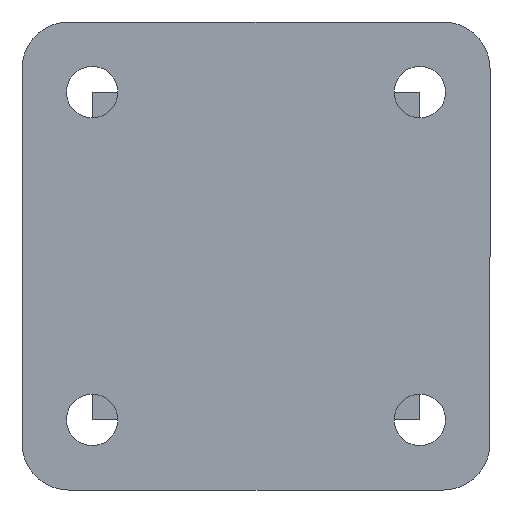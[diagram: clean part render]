
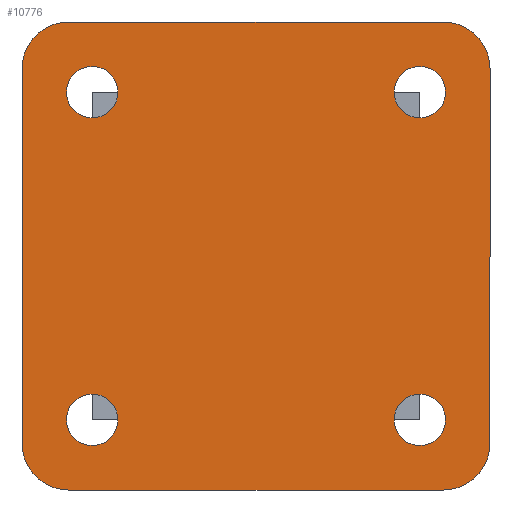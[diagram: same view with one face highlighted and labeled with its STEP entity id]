
A CAD part, front view. The second image highlights one B-rep face of the part: STEP entity #10776.
In plain terms, the highlighted planar face has unit normal (0, -1, 0).
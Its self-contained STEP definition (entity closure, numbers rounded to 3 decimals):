
#31 = CARTESIAN_POINT ( 'NONE',  ( 50., 0., -50. ) ) ;
#76 = AXIS2_PLACEMENT_3D ( 'NONE', #4299, #9288, #1885 ) ;
#141 = CIRCLE ( 'NONE', #12483, 10. ) ;
#207 = CARTESIAN_POINT ( 'NONE',  ( 35., 0., 40.5 ) ) ;
#396 = VERTEX_POINT ( 'NONE', #14947 ) ;
#506 = CIRCLE ( 'NONE', #695, 5.5 ) ;
#671 = EDGE_CURVE ( 'NONE', #5492, #16005, #5587, .T. ) ;
#679 = DIRECTION ( 'NONE',  ( 0., 1., 0. ) ) ;
#695 = AXIS2_PLACEMENT_3D ( 'NONE', #13214, #679, #9348 ) ;
#701 = EDGE_CURVE ( 'NONE', #4297, #1022, #15225, .T. ) ;
#829 = EDGE_LOOP ( 'NONE', ( #7692, #7139 ) ) ;
#883 = EDGE_CURVE ( 'NONE', #4214, #13700, #506, .T. ) ;
#989 = VERTEX_POINT ( 'NONE', #7254 ) ;
#1022 = VERTEX_POINT ( 'NONE', #3370 ) ;
#1119 = ORIENTED_EDGE ( 'NONE', *, *, #3854, .T. ) ;
#1310 = ORIENTED_EDGE ( 'NONE', *, *, #15198, .T. ) ;
#1312 = VECTOR ( 'NONE', #16020, 1000. ) ;
#1324 = EDGE_CURVE ( 'NONE', #1543, #396, #3075, .T. ) ;
#1407 = DIRECTION ( 'NONE',  ( 0., 0., 1. ) ) ;
#1418 = EDGE_CURVE ( 'NONE', #2429, #14824, #7744, .T. ) ;
#1509 = ORIENTED_EDGE ( 'NONE', *, *, #8584, .T. ) ;
#1543 = VERTEX_POINT ( 'NONE', #5329 ) ;
#1778 = CARTESIAN_POINT ( 'NONE',  ( -40., 0., -50. ) ) ;
#1885 = DIRECTION ( 'NONE',  ( 0., 0., 1. ) ) ;
#1981 = ORIENTED_EDGE ( 'NONE', *, *, #8455, .F. ) ;
#2040 = VERTEX_POINT ( 'NONE', #8398 ) ;
#2054 = DIRECTION ( 'NONE',  ( -1., 0., 0. ) ) ;
#2231 = ORIENTED_EDGE ( 'NONE', *, *, #1418, .F. ) ;
#2429 = VERTEX_POINT ( 'NONE', #10417 ) ;
#2466 = CARTESIAN_POINT ( 'NONE',  ( -35., 0., 35. ) ) ;
#2780 = CARTESIAN_POINT ( 'NONE',  ( -50., 0., 50. ) ) ;
#2891 = DIRECTION ( 'NONE',  ( 0., 1., 0. ) ) ;
#3075 = CIRCLE ( 'NONE', #7107, 5.5 ) ;
#3220 = CARTESIAN_POINT ( 'NONE',  ( -35., 0., -29.5 ) ) ;
#3227 = AXIS2_PLACEMENT_3D ( 'NONE', #5495, #12009, #8023 ) ;
#3370 = CARTESIAN_POINT ( 'NONE',  ( 50., 0., -40. ) ) ;
#3594 = CIRCLE ( 'NONE', #16195, 10. ) ;
#3640 = AXIS2_PLACEMENT_3D ( 'NONE', #14405, #15680, #4409 ) ;
#3715 = VERTEX_POINT ( 'NONE', #7282 ) ;
#3814 = DIRECTION ( 'NONE',  ( 0., 1., 0. ) ) ;
#3854 = EDGE_CURVE ( 'NONE', #16005, #5492, #7788, .T. ) ;
#3856 = VECTOR ( 'NONE', #2054, 1000. ) ;
#4065 = DIRECTION ( 'NONE',  ( 0., 0., 1. ) ) ;
#4132 = DIRECTION ( 'NONE',  ( 0., 1., 0. ) ) ;
#4214 = VERTEX_POINT ( 'NONE', #3220 ) ;
#4297 = VERTEX_POINT ( 'NONE', #7156 ) ;
#4299 = CARTESIAN_POINT ( 'NONE',  ( 40., 0., -40. ) ) ;
#4362 = CARTESIAN_POINT ( 'NONE',  ( -40., 0., -40. ) ) ;
#4409 = DIRECTION ( 'NONE',  ( 0., 0., 1. ) ) ;
#4455 = EDGE_LOOP ( 'NONE', ( #13863, #15107, #8638, #13709, #1981, #11801, #2231, #1509 ) ) ;
#4603 = ORIENTED_EDGE ( 'NONE', *, *, #11430, .T. ) ;
#4781 = DIRECTION ( 'NONE',  ( 0., 0., 1. ) ) ;
#5017 = CIRCLE ( 'NONE', #3640, 5.5 ) ;
#5076 = DIRECTION ( 'NONE',  ( 0., 0., 1. ) ) ;
#5222 = CIRCLE ( 'NONE', #8327, 10. ) ;
#5329 = CARTESIAN_POINT ( 'NONE',  ( 35., 0., -40.5 ) ) ;
#5330 = EDGE_CURVE ( 'NONE', #989, #7896, #10540, .T. ) ;
#5373 = EDGE_LOOP ( 'NONE', ( #7697, #1310 ) ) ;
#5439 = CARTESIAN_POINT ( 'NONE',  ( 35., 0., -35. ) ) ;
#5440 = FACE_BOUND ( 'NONE', #829, .T. ) ;
#5476 = CARTESIAN_POINT ( 'NONE',  ( -35., 0., 40.5 ) ) ;
#5492 = VERTEX_POINT ( 'NONE', #5476 ) ;
#5495 = CARTESIAN_POINT ( 'NONE',  ( -35., 0., 35. ) ) ;
#5587 = CIRCLE ( 'NONE', #3227, 5.5 ) ;
#6005 = VERTEX_POINT ( 'NONE', #7555 ) ;
#6356 = CARTESIAN_POINT ( 'NONE',  ( -35., 0., 29.5 ) ) ;
#6531 = CARTESIAN_POINT ( 'NONE',  ( -50., 0., 50. ) ) ;
#6695 = DIRECTION ( 'NONE',  ( 1., 0., 0. ) ) ;
#6813 = AXIS2_PLACEMENT_3D ( 'NONE', #7840, #15426, #4065 ) ;
#7013 = EDGE_CURVE ( 'NONE', #6005, #14824, #5222, .T. ) ;
#7107 = AXIS2_PLACEMENT_3D ( 'NONE', #5439, #4132, #12613 ) ;
#7139 = ORIENTED_EDGE ( 'NONE', *, *, #5330, .T. ) ;
#7156 = CARTESIAN_POINT ( 'NONE',  ( 40., 0., -50. ) ) ;
#7254 = CARTESIAN_POINT ( 'NONE',  ( 35., 0., 29.5 ) ) ;
#7282 = CARTESIAN_POINT ( 'NONE',  ( -50., 0., -40. ) ) ;
#7366 = DIRECTION ( 'NONE',  ( 0., 0., 1. ) ) ;
#7438 = CARTESIAN_POINT ( 'NONE',  ( -50., 0., -50. ) ) ;
#7484 = CIRCLE ( 'NONE', #11890, 5.5 ) ;
#7555 = CARTESIAN_POINT ( 'NONE',  ( 50., 0., 40. ) ) ;
#7692 = ORIENTED_EDGE ( 'NONE', *, *, #9530, .T. ) ;
#7697 = ORIENTED_EDGE ( 'NONE', *, *, #883, .T. ) ;
#7744 = LINE ( 'NONE', #6531, #11900 ) ;
#7747 = DIRECTION ( 'NONE',  ( 0., 0., 1. ) ) ;
#7788 = CIRCLE ( 'NONE', #9976, 5.5 ) ;
#7793 = CARTESIAN_POINT ( 'NONE',  ( 40., 0., 50. ) ) ;
#7840 = CARTESIAN_POINT ( 'NONE',  ( 35., 0., 35. ) ) ;
#7896 = VERTEX_POINT ( 'NONE', #207 ) ;
#7920 = DIRECTION ( 'NONE',  ( 0., 0., 1. ) ) ;
#8023 = DIRECTION ( 'NONE',  ( 0., 0., 1. ) ) ;
#8135 = DIRECTION ( 'NONE',  ( 0., 0., 1. ) ) ;
#8289 = VECTOR ( 'NONE', #5076, 1000. ) ;
#8327 = AXIS2_PLACEMENT_3D ( 'NONE', #16216, #13535, #4781 ) ;
#8398 = CARTESIAN_POINT ( 'NONE',  ( -50., 0., 40. ) ) ;
#8455 = EDGE_CURVE ( 'NONE', #6005, #1022, #11724, .T. ) ;
#8523 = CARTESIAN_POINT ( 'NONE',  ( -50., 0., -50. ) ) ;
#8584 = EDGE_CURVE ( 'NONE', #2429, #2040, #141, .T. ) ;
#8638 = ORIENTED_EDGE ( 'NONE', *, *, #10176, .F. ) ;
#8730 = CARTESIAN_POINT ( 'NONE',  ( 35., 0., -35. ) ) ;
#8907 = CARTESIAN_POINT ( 'NONE',  ( -40., 0., 40. ) ) ;
#9278 = ORIENTED_EDGE ( 'NONE', *, *, #671, .T. ) ;
#9288 = DIRECTION ( 'NONE',  ( 0., -1., 0. ) ) ;
#9348 = DIRECTION ( 'NONE',  ( 0., 0., 1. ) ) ;
#9503 = CARTESIAN_POINT ( 'NONE',  ( -35., 0., -35. ) ) ;
#9530 = EDGE_CURVE ( 'NONE', #7896, #989, #5017, .T. ) ;
#9878 = LINE ( 'NONE', #7438, #8289 ) ;
#9960 = ORIENTED_EDGE ( 'NONE', *, *, #1324, .T. ) ;
#9976 = AXIS2_PLACEMENT_3D ( 'NONE', #2466, #12532, #1407 ) ;
#10124 = DIRECTION ( 'NONE',  ( 0., -1., 0. ) ) ;
#10176 = EDGE_CURVE ( 'NONE', #4297, #11094, #10520, .T. ) ;
#10254 = AXIS2_PLACEMENT_3D ( 'NONE', #8730, #3814, #7366 ) ;
#10291 = CARTESIAN_POINT ( 'NONE',  ( -35., 0., -40.5 ) ) ;
#10417 = CARTESIAN_POINT ( 'NONE',  ( -40., 0., 50. ) ) ;
#10520 = LINE ( 'NONE', #8523, #3856 ) ;
#10540 = CIRCLE ( 'NONE', #6813, 5.5 ) ;
#10776 = ADVANCED_FACE ( 'NONE', ( #16096, #5440, #11966, #12368, #13153 ), #15340, .F. ) ;
#10812 = DIRECTION ( 'NONE',  ( 0., 1., 0. ) ) ;
#11094 = VERTEX_POINT ( 'NONE', #1778 ) ;
#11430 = EDGE_CURVE ( 'NONE', #396, #1543, #13729, .T. ) ;
#11724 = LINE ( 'NONE', #31, #1312 ) ;
#11783 = DIRECTION ( 'NONE',  ( 0., -1., 0. ) ) ;
#11801 = ORIENTED_EDGE ( 'NONE', *, *, #7013, .T. ) ;
#11890 = AXIS2_PLACEMENT_3D ( 'NONE', #9503, #10812, #13529 ) ;
#11900 = VECTOR ( 'NONE', #6695, 1000. ) ;
#11966 = FACE_BOUND ( 'NONE', #15725, .T. ) ;
#12009 = DIRECTION ( 'NONE',  ( 0., 1., 0. ) ) ;
#12247 = EDGE_LOOP ( 'NONE', ( #9278, #1119 ) ) ;
#12368 = FACE_BOUND ( 'NONE', #5373, .T. ) ;
#12483 = AXIS2_PLACEMENT_3D ( 'NONE', #8907, #10124, #7747 ) ;
#12532 = DIRECTION ( 'NONE',  ( 0., 1., 0. ) ) ;
#12613 = DIRECTION ( 'NONE',  ( 0., 0., 1. ) ) ;
#13153 = FACE_OUTER_BOUND ( 'NONE', #4455, .T. ) ;
#13214 = CARTESIAN_POINT ( 'NONE',  ( -35., 0., -35. ) ) ;
#13440 = EDGE_CURVE ( 'NONE', #3715, #2040, #9878, .T. ) ;
#13529 = DIRECTION ( 'NONE',  ( 0., 0., 1. ) ) ;
#13535 = DIRECTION ( 'NONE',  ( 0., -1., 0. ) ) ;
#13700 = VERTEX_POINT ( 'NONE', #10291 ) ;
#13709 = ORIENTED_EDGE ( 'NONE', *, *, #701, .T. ) ;
#13729 = CIRCLE ( 'NONE', #10254, 5.5 ) ;
#13863 = ORIENTED_EDGE ( 'NONE', *, *, #13440, .F. ) ;
#13877 = EDGE_CURVE ( 'NONE', #3715, #11094, #3594, .T. ) ;
#14405 = CARTESIAN_POINT ( 'NONE',  ( 35., 0., 35. ) ) ;
#14824 = VERTEX_POINT ( 'NONE', #7793 ) ;
#14947 = CARTESIAN_POINT ( 'NONE',  ( 35., 0., -29.5 ) ) ;
#14999 = AXIS2_PLACEMENT_3D ( 'NONE', #2780, #2891, #7920 ) ;
#15107 = ORIENTED_EDGE ( 'NONE', *, *, #13877, .T. ) ;
#15198 = EDGE_CURVE ( 'NONE', #13700, #4214, #7484, .T. ) ;
#15225 = CIRCLE ( 'NONE', #76, 10. ) ;
#15340 = PLANE ( 'NONE',  #14999 ) ;
#15426 = DIRECTION ( 'NONE',  ( 0., 1., 0. ) ) ;
#15680 = DIRECTION ( 'NONE',  ( 0., 1., 0. ) ) ;
#15725 = EDGE_LOOP ( 'NONE', ( #4603, #9960 ) ) ;
#16005 = VERTEX_POINT ( 'NONE', #6356 ) ;
#16020 = DIRECTION ( 'NONE',  ( 0., 0., -1. ) ) ;
#16096 = FACE_BOUND ( 'NONE', #12247, .T. ) ;
#16195 = AXIS2_PLACEMENT_3D ( 'NONE', #4362, #11783, #8135 ) ;
#16216 = CARTESIAN_POINT ( 'NONE',  ( 40., 0., 40. ) ) ;
